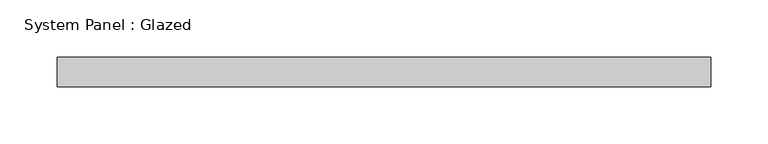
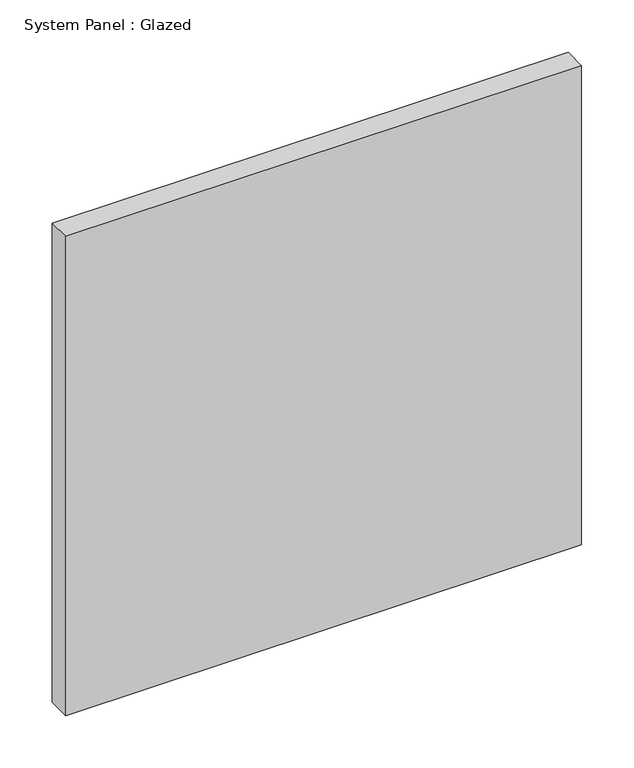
"""IFC4 building model written with IfcOpenShell, lengths in millimetres: plate geometry, System Panel : Glazed."""

from ifc_helpers import new_model, si_unit, origin, origin_with_axes, place, context, project, spatial, polyline, outline, extrude, source, transform, mapped, element, save


def system_panel_glazed_27b3d5e0(model_context):
    return source(origin(), model_context, "Body", "SweptSolid", [
        extrude(outline(polyline([(284.6978478, -12.7), (-284.6978478, -12.7), (-284.6978478, 12.7), (284.6978478, 12.7), (284.6978478, -12.7)])), origin_with_axes(), (0.0, 0.0, 1.0), 558.8),
    ])


if __name__ == "__main__":
    model = new_model("IFC4")
    model_context = context("Model", 3, world=origin())
    ifc_project = project(units=[si_unit("LENGTHUNIT", "METRE", prefix="MILLI")], contexts=[model_context])
    site = spatial("IfcSite", under=ifc_project)
    building = spatial("IfcBuilding", under=site)
    placement = place(None, origin())
    system_panel_glazed_shape = system_panel_glazed_27b3d5e0(model_context)
    element("IfcPlate", 1, ObjectType="System Panel : Glazed", at=placement, inside=building, context=model_context, shape_type="MappedRepresentation", body=[
        mapped(system_panel_glazed_shape, transform((0.0, 0.0, 0.0), x_axis=(1.0, 0.0, 0.0), y_axis=(0.0, 1.0, 0.0), z_axis=(0.0, 0.0, 1.0))),
    ])
    save(model, "model.ifc")
